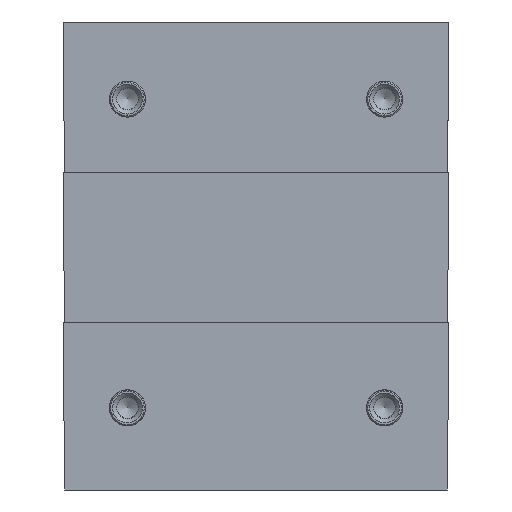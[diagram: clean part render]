
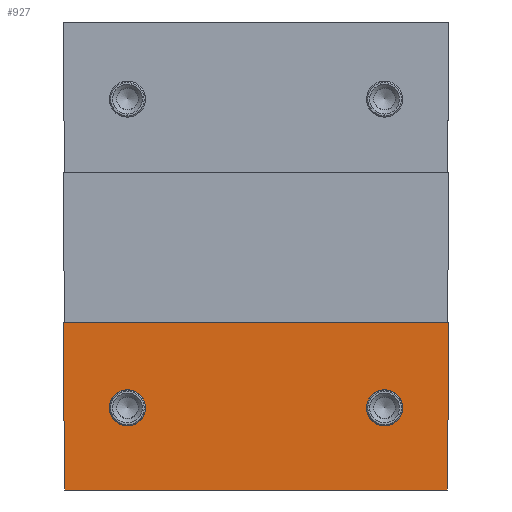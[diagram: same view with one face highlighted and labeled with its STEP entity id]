
A CAD part, front view. The second image highlights one B-rep face of the part: STEP entity #927.
In plain terms, the highlighted planar face has unit normal (0, -1, -0.009).
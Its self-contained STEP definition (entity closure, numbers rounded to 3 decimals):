
#927=ADVANCED_FACE('',(#2594,#2596,#2598),#2600,.T.);
#2594=FACE_BOUND('',#2595,.T.);
#2595=EDGE_LOOP('',(#4035,#4036,#4037,#4038));
#2596=FACE_BOUND('',#2597,.T.);
#2597=EDGE_LOOP('',(#4039));
#2598=FACE_BOUND('',#2599,.T.);
#2599=EDGE_LOOP('',(#4040));
#2600=PLANE('',#2601);
#2601=AXIS2_PLACEMENT_3D('',#2602,#2603,#2604);
#2602=CARTESIAN_POINT('',(0.,-81.641,253.093));
#2603=DIRECTION('',(-0.,-1.,-0.009));
#2604=DIRECTION('',(-1.,0.,0.));
#4035=ORIENTED_EDGE('',*,*,#4823,.F.);
#4036=ORIENTED_EDGE('',*,*,#4819,.T.);
#4037=ORIENTED_EDGE('',*,*,#4824,.T.);
#4038=ORIENTED_EDGE('',*,*,#4796,.T.);
#4039=ORIENTED_EDGE('',*,*,#4825,.T.);
#4040=ORIENTED_EDGE('',*,*,#4826,.F.);
#4796=EDGE_CURVE('',#5257,#5255,#5258,.T.);
#4819=EDGE_CURVE('',#5301,#5299,#5302,.T.);
#4823=EDGE_CURVE('',#5301,#5255,#5306,.T.);
#4824=EDGE_CURVE('',#5299,#5257,#5307,.T.);
#4825=EDGE_CURVE('',#5308,#5308,#5309,.T.);
#4826=EDGE_CURVE('',#5310,#5310,#5311,.T.);
#5255=VERTEX_POINT('',#6099);
#5257=VERTEX_POINT('',#6103);
#5258=LINE('',#6104,#6105);
#5299=VERTEX_POINT('',#6199);
#5301=VERTEX_POINT('',#6203);
#5302=LINE('',#6204,#6205);
#5306=LINE('',#6216,#6217);
#5307=LINE('',#6219,#6220);
#5308=VERTEX_POINT('',#6222);
#5309=(BOUNDED_CURVE()B_SPLINE_CURVE(3,
(#6223,#6224,#6225,#6226,#6227,#6228,#6229),
.UNSPECIFIED.,.T.,.F.)B_SPLINE_CURVE_WITH_KNOTS((4,3,4),
(0.,0.5,1.),
.UNSPECIFIED.)CURVE()GEOMETRIC_REPRESENTATION_ITEM()RATIONAL_B_SPLINE_CURVE((1.,
0.333,0.333,1.,0.333,0.333,1.))
REPRESENTATION_ITEM(''));
#5310=VERTEX_POINT('',#6230);
#5311=(BOUNDED_CURVE()B_SPLINE_CURVE(3,
(#6231,#6232,#6233,#6234,#6235,#6236,#6237),
.UNSPECIFIED.,.T.,.F.)B_SPLINE_CURVE_WITH_KNOTS((4,3,4),
(0.,0.5,1.),
.UNSPECIFIED.)CURVE()GEOMETRIC_REPRESENTATION_ITEM()RATIONAL_B_SPLINE_CURVE((1.,
0.333,0.333,1.,0.333,0.333,1.))
REPRESENTATION_ITEM(''));
#6099=CARTESIAN_POINT('',(-75.,-80.,65.));
#6103=CARTESIAN_POINT('',(75.,-80.,65.));
#6104=CARTESIAN_POINT('',(75.,-80.,65.));
#6105=VECTOR('',#6106,1.);
#6106=DIRECTION('',(-1.,0.,0.));
#6199=CARTESIAN_POINT('',(74.433,-79.433,0.));
#6203=CARTESIAN_POINT('',(-74.433,-79.433,0.));
#6204=CARTESIAN_POINT('',(-74.433,-79.433,0.));
#6205=VECTOR('',#6206,1.);
#6206=DIRECTION('',(1.,0.,0.));
#6216=CARTESIAN_POINT('',(-74.433,-79.433,0.));
#6217=VECTOR('',#6218,1.);
#6218=DIRECTION('',(-0.009,-0.009,1.));
#6219=CARTESIAN_POINT('',(74.433,-79.433,0.));
#6220=VECTOR('',#6221,1.);
#6221=DIRECTION('',(0.009,-0.009,1.));
#6222=CARTESIAN_POINT('',(-43.,-79.712,32.));
#6223=CARTESIAN_POINT('',(-43.,-79.712,32.));
#6224=CARTESIAN_POINT('',(-43.,-79.59,18.));
#6225=CARTESIAN_POINT('',(-57.,-79.59,18.));
#6226=CARTESIAN_POINT('',(-57.,-79.712,32.));
#6227=CARTESIAN_POINT('',(-57.,-79.834,46.));
#6228=CARTESIAN_POINT('',(-43.,-79.834,46.));
#6229=CARTESIAN_POINT('',(-43.,-79.712,32.));
#6230=CARTESIAN_POINT('',(43.,-79.712,32.));
#6231=CARTESIAN_POINT('',(43.,-79.712,32.));
#6232=CARTESIAN_POINT('',(43.,-79.59,18.));
#6233=CARTESIAN_POINT('',(57.,-79.59,18.));
#6234=CARTESIAN_POINT('',(57.,-79.712,32.));
#6235=CARTESIAN_POINT('',(57.,-79.834,46.));
#6236=CARTESIAN_POINT('',(43.,-79.834,46.));
#6237=CARTESIAN_POINT('',(43.,-79.712,32.));
